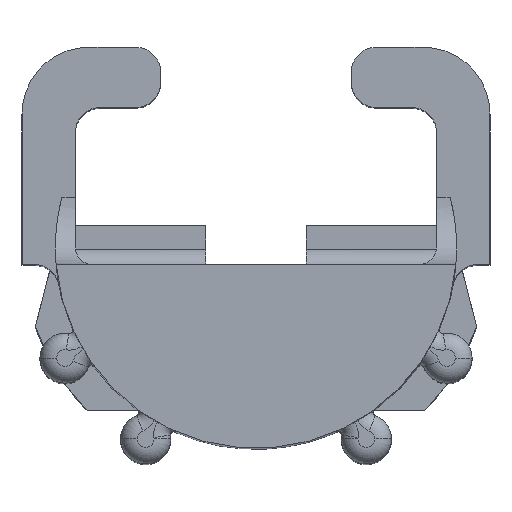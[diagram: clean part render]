
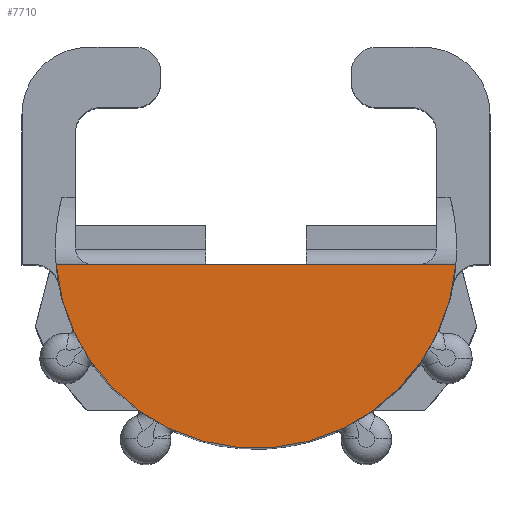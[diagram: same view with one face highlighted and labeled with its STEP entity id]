
A CAD part, top view. The second image highlights one B-rep face of the part: STEP entity #7710.
In plain terms, the highlighted planar face has unit normal (0, 0, 1).
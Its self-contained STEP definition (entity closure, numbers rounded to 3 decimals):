
#312 = EDGE_LOOP ( 'NONE', ( #4365, #1368, #4069, #2530 ) ) ;
#513 = DIRECTION ( 'NONE',  ( 1., 0., 0. ) ) ;
#623 = AXIS2_PLACEMENT_3D ( 'NONE', #990, #2644, #513 ) ;
#990 = CARTESIAN_POINT ( 'NONE',  ( 0., 0., 35.353 ) ) ;
#1041 = EDGE_CURVE ( 'NONE', #3059, #4257, #5955, .T. ) ;
#1260 = CARTESIAN_POINT ( 'NONE',  ( -6., -0.5, 35.353 ) ) ;
#1368 = ORIENTED_EDGE ( 'NONE', *, *, #1041, .F. ) ;
#1557 = CARTESIAN_POINT ( 'NONE',  ( 5.979, -0.5, 35.353 ) ) ;
#2191 = CARTESIAN_POINT ( 'NONE',  ( -4.9, -0.5, 35.353 ) ) ;
#2530 = ORIENTED_EDGE ( 'NONE', *, *, #6873, .F. ) ;
#2543 = VECTOR ( 'NONE', #8704, 1000. ) ;
#2644 = DIRECTION ( 'NONE',  ( 0., 0., 1. ) ) ;
#3059 = VERTEX_POINT ( 'NONE', #8732 ) ;
#3085 = VECTOR ( 'NONE', #8073, 1000. ) ;
#3183 = CIRCLE ( 'NONE', #5039, 6. ) ;
#3632 = CARTESIAN_POINT ( 'NONE',  ( 0., 0., 35.353 ) ) ;
#4002 = FACE_OUTER_BOUND ( 'NONE', #312, .T. ) ;
#4069 = ORIENTED_EDGE ( 'NONE', *, *, #6060, .F. ) ;
#4136 = VECTOR ( 'NONE', #7609, 1000. ) ;
#4257 = VERTEX_POINT ( 'NONE', #1557 ) ;
#4365 = ORIENTED_EDGE ( 'NONE', *, *, #4519, .T. ) ;
#4519 = EDGE_CURVE ( 'NONE', #6823, #4257, #3183, .T. ) ;
#4894 = DIRECTION ( 'NONE',  ( 1., 0., 0. ) ) ;
#5039 = AXIS2_PLACEMENT_3D ( 'NONE', #3632, #6945, #4894 ) ;
#5314 = LINE ( 'NONE', #6130, #3085 ) ;
#5955 = LINE ( 'NONE', #8075, #2543 ) ;
#5960 = CARTESIAN_POINT ( 'NONE',  ( -5.979, -0.5, 35.353 ) ) ;
#6060 = EDGE_CURVE ( 'NONE', #7827, #3059, #5314, .T. ) ;
#6130 = CARTESIAN_POINT ( 'NONE',  ( -6., -0.5, 35.353 ) ) ;
#6823 = VERTEX_POINT ( 'NONE', #5960 ) ;
#6856 = PLANE ( 'NONE',  #623 ) ;
#6873 = EDGE_CURVE ( 'NONE', #6823, #7827, #8305, .T. ) ;
#6945 = DIRECTION ( 'NONE',  ( 0., 0., 1. ) ) ;
#7609 = DIRECTION ( 'NONE',  ( 1., 0., 0. ) ) ;
#7710 = ADVANCED_FACE ( 'NONE', ( #4002 ), #6856, .T. ) ;
#7827 = VERTEX_POINT ( 'NONE', #2191 ) ;
#8073 = DIRECTION ( 'NONE',  ( 1., 0., 0. ) ) ;
#8075 = CARTESIAN_POINT ( 'NONE',  ( -6., -0.5, 35.353 ) ) ;
#8305 = LINE ( 'NONE', #1260, #4136 ) ;
#8704 = DIRECTION ( 'NONE',  ( 1., 0., 0. ) ) ;
#8732 = CARTESIAN_POINT ( 'NONE',  ( 4.9, -0.5, 35.353 ) ) ;
